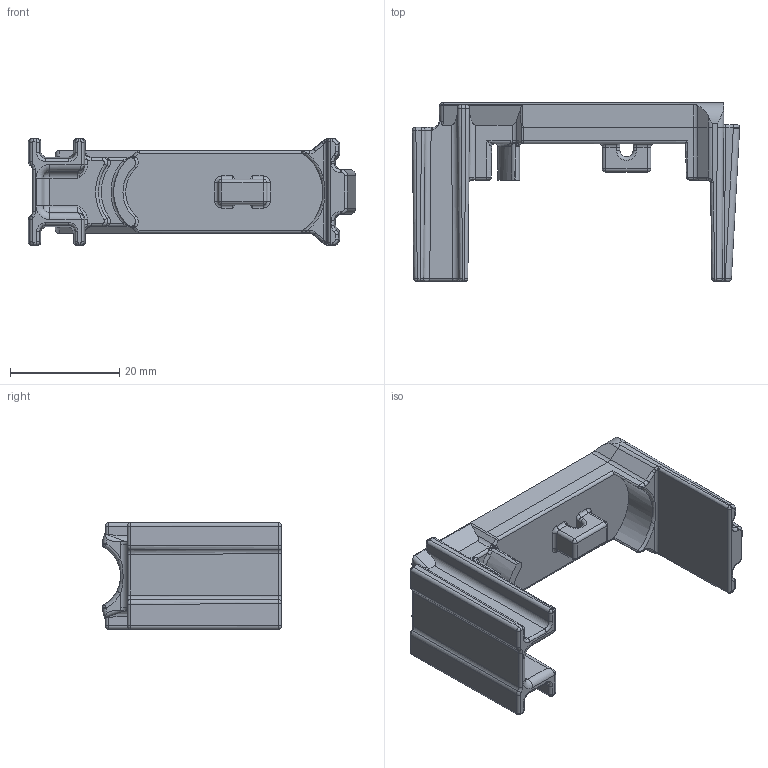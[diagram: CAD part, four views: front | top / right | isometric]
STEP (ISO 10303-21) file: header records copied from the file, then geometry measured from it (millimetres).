
FILE_DESCRIPTION(/* description */ (''),/* implementation_level */ '2;1');
FILE_NAME(/* name */ 'C:/Users/Relic/Documents/450 Follower.step',/* time_stamp */ '2019-03-06T22:49:36-06:00',/* author */ (''),/* organization */ (''),/* preprocessor_version */ 'ST-DEVELOPER v17.2',/* originating_system */ 'Autodesk Translation Framework v7.6.0.251',/* authorisation */ '');
FILE_SCHEMA (('AUTOMOTIVE_DESIGN { 1 0 10303 214 3 1 1 }'));
Length unit declared in the file: inch
Products named in the file (1): FusionComponent
Bounding box: 59.96 x 32.77 x 19.56 mm (x, y, z)
Volume: 9731.3 mm3; surface area: 6511.8 mm2
Topology: 1 solids, 1 shells, 376 faces, 917 edges, 529 vertices
Faces by surface type: cylinder 158, bspline 109, plane 75, torus 25, sphere 9
Entity records: 13817 total; most frequent: CARTESIAN_POINT 5468, ORIENTED_EDGE 1806, DIRECTION 1661, EDGE_CURVE 903, AXIS2_PLACEMENT_3D 661, VERTEX_POINT 529, EDGE_LOOP 378, FACE_OUTER_BOUND 376
